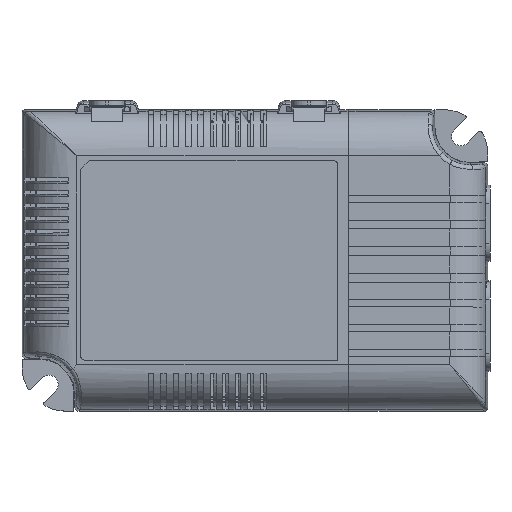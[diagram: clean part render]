
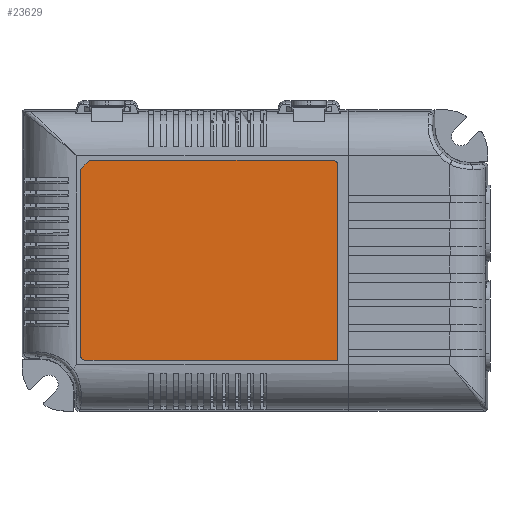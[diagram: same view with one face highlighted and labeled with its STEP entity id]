
A CAD part, top view. The second image highlights one B-rep face of the part: STEP entity #23629.
In plain terms, the highlighted planar face has unit normal (0, 0, 1).
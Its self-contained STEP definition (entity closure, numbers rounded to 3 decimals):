
#22702=CARTESIAN_POINT('',(38.008,-19.65,17.1));
#22703=VERTEX_POINT('',#22702);
#22718=CARTESIAN_POINT('',(38.008,24.35,17.1));
#22719=VERTEX_POINT('',#22718);
#22726=CARTESIAN_POINT('',(38.008,24.35,17.1));
#22727=DIRECTION('',(0.0,-1.0,0.0));
#22728=VECTOR('',#22727,44.0);
#22729=LINE('',#22726,#22728);
#22730=EDGE_CURVE('',#22719,#22703,#22729,.T.);
#23285=CARTESIAN_POINT('',(37.008,25.35,17.1));
#23286=VERTEX_POINT('',#23285);
#23293=CARTESIAN_POINT('',(37.008,24.35,17.1));
#23294=DIRECTION('',(0.0,0.0,1.0));
#23295=DIRECTION('',(1.0,0.0,0.0));
#23296=AXIS2_PLACEMENT_3D('',#23293,#23294,#23295);
#23297=CIRCLE('',#23296,1.0);
#23298=EDGE_CURVE('',#22719,#23286,#23297,.T.);
#23581=CARTESIAN_POINT('',(28.55,25.278,17.1));
#23582=DIRECTION('',(0.0,0.0,1.0));
#23583=DIRECTION('',(1.0,0.0,0.0));
#23584=AXIS2_PLACEMENT_3D('',#23581,#23582,#23583);
#23585=PLANE('',#23584);
#23586=CARTESIAN_POINT('',(-17.992,25.35,17.1));
#23587=VERTEX_POINT('',#23586);
#23588=CARTESIAN_POINT('',(37.008,25.35,17.1));
#23589=DIRECTION('',(-1.0,0.0,0.0));
#23590=VECTOR('',#23589,55.0);
#23591=LINE('',#23588,#23590);
#23592=EDGE_CURVE('',#23286,#23587,#23591,.T.);
#23593=ORIENTED_EDGE('',*,*,#23592,.T.);
#23594=CARTESIAN_POINT('',(-19.992,23.35,17.1));
#23595=VERTEX_POINT('',#23594);
#23596=CARTESIAN_POINT('',(-17.992,25.35,17.1));
#23597=DIRECTION('',(-0.707,-0.707,0.0));
#23598=VECTOR('',#23597,2.828);
#23599=LINE('',#23596,#23598);
#23600=EDGE_CURVE('',#23587,#23595,#23599,.T.);
#23601=ORIENTED_EDGE('',*,*,#23600,.T.);
#23602=CARTESIAN_POINT('',(-19.992,-18.65,17.1));
#23603=VERTEX_POINT('',#23602);
#23604=CARTESIAN_POINT('',(-19.992,23.35,17.1));
#23605=DIRECTION('',(0.0,-1.0,0.0));
#23606=VECTOR('',#23605,42.0);
#23607=LINE('',#23604,#23606);
#23608=EDGE_CURVE('',#23595,#23603,#23607,.T.);
#23609=ORIENTED_EDGE('',*,*,#23608,.T.);
#23610=CARTESIAN_POINT('',(-18.992,-19.65,17.1));
#23611=VERTEX_POINT('',#23610);
#23612=CARTESIAN_POINT('',(-18.992,-18.65,17.1));
#23613=DIRECTION('',(0.0,0.0,1.0));
#23614=DIRECTION('',(-1.0,0.0,0.0));
#23615=AXIS2_PLACEMENT_3D('',#23612,#23613,#23614);
#23616=CIRCLE('',#23615,1.0);
#23617=EDGE_CURVE('',#23603,#23611,#23616,.T.);
#23618=ORIENTED_EDGE('',*,*,#23617,.T.);
#23619=CARTESIAN_POINT('',(-18.992,-19.65,17.1));
#23620=DIRECTION('',(1.0,0.0,0.0));
#23621=VECTOR('',#23620,57.0);
#23622=LINE('',#23619,#23621);
#23623=EDGE_CURVE('',#23611,#22703,#23622,.T.);
#23624=ORIENTED_EDGE('',*,*,#23623,.T.);
#23625=ORIENTED_EDGE('',*,*,#22730,.F.);
#23626=ORIENTED_EDGE('',*,*,#23298,.T.);
#23627=EDGE_LOOP('',(#23593,#23601,#23609,#23618,#23624,#23625,#23626));
#23628=FACE_OUTER_BOUND('',#23627,.T.);
#23629=ADVANCED_FACE('',(#23628),#23585,.T.);
